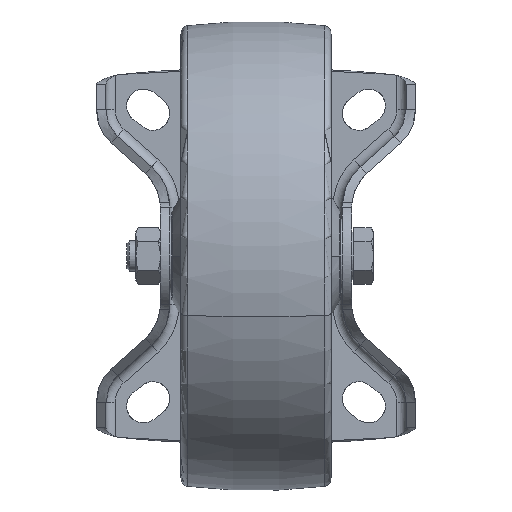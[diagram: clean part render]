
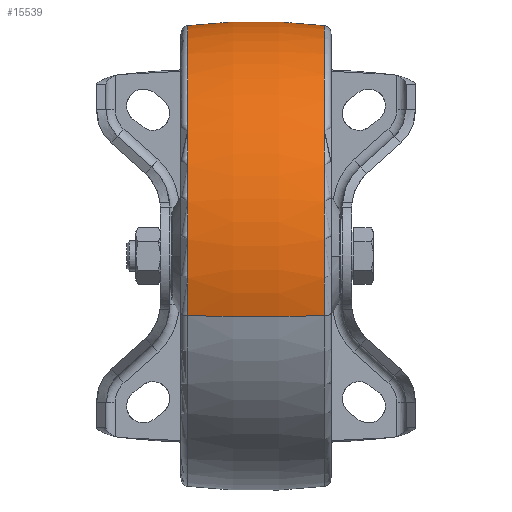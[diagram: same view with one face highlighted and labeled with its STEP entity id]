
A CAD part, front view. The second image highlights one B-rep face of the part: STEP entity #15539.
In plain terms, the highlighted toroidal (fillet/blend) face has major radius 87.5 mm and minor radius 150 mm.
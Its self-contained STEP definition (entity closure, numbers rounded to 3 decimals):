
#6308 = DIRECTION ( 'NONE',  ( 0., 0.966, 0.259 ) ) ;
#7600 = AXIS2_PLACEMENT_3D ( 'NONE', #63308, #17959, #57996 ) ;
#8575 = VERTEX_POINT ( 'NONE', #62559 ) ;
#8923 = AXIS2_PLACEMENT_3D ( 'NONE', #24689, #65407, #55018 ) ;
#11637 = VERTEX_POINT ( 'NONE', #38419 ) ;
#13123 = EDGE_CURVE ( 'NONE', #38137, #61074, #43927, .T. ) ;
#13463 = ORIENTED_EDGE ( 'NONE', *, *, #44199, .F. ) ;
#15408 = ORIENTED_EDGE ( 'NONE', *, *, #18174, .F. ) ;
#15539 = ADVANCED_FACE ( 'NONE', ( #30942 ), #54770, .T. ) ;
#17959 = DIRECTION ( 'NONE',  ( 1., 0., 0. ) ) ;
#18174 = EDGE_CURVE ( 'NONE', #38137, #8575, #63158, .T. ) ;
#19834 = AXIS2_PLACEMENT_3D ( 'NONE', #58515, #28883, #38404 ) ;
#20075 = CIRCLE ( 'NONE', #21869, 61.386 ) ;
#21869 = AXIS2_PLACEMENT_3D ( 'NONE', #46632, #26667, #6308 ) ;
#23047 = CARTESIAN_POINT ( 'NONE',  ( 18.243, 0., -61.386 ) ) ;
#24249 = CIRCLE ( 'NONE', #8923, 150. ) ;
#24689 = CARTESIAN_POINT ( 'NONE',  ( 0., 0., 87.5 ) ) ;
#26640 = ORIENTED_EDGE ( 'NONE', *, *, #13123, .T. ) ;
#26667 = DIRECTION ( 'NONE',  ( -1., 0., 0. ) ) ;
#28211 = DIRECTION ( 'NONE',  ( 0., -0.259, 0.966 ) ) ;
#28883 = DIRECTION ( 'NONE',  ( -1., 0., 0. ) ) ;
#30942 = FACE_OUTER_BOUND ( 'NONE', #46539, .T. ) ;
#38137 = VERTEX_POINT ( 'NONE', #43038 ) ;
#38404 = DIRECTION ( 'NONE',  ( 0., 0.966, 0.259 ) ) ;
#38419 = CARTESIAN_POINT ( 'NONE',  ( -18.243, 0., -61.386 ) ) ;
#43038 = CARTESIAN_POINT ( 'NONE',  ( 18.243, 59.295, 15.888 ) ) ;
#43927 = CIRCLE ( 'NONE', #19834, 61.386 ) ;
#44199 = EDGE_CURVE ( 'NONE', #8575, #11637, #20075, .T. ) ;
#46539 = EDGE_LOOP ( 'NONE', ( #47599, #13463, #15408, #26640 ) ) ;
#46632 = CARTESIAN_POINT ( 'NONE',  ( -18.243, 0., 0. ) ) ;
#46683 = AXIS2_PLACEMENT_3D ( 'NONE', #48627, #28211, #58286 ) ;
#47599 = ORIENTED_EDGE ( 'NONE', *, *, #62552, .F. ) ;
#48627 = CARTESIAN_POINT ( 'NONE',  ( 0., -84.519, -22.647 ) ) ;
#54770 = TOROIDAL_SURFACE ( 'NONE', #7600, -87.5, 150. ) ;
#55018 = DIRECTION ( 'NONE',  ( 1., 0., 0. ) ) ;
#57996 = DIRECTION ( 'NONE',  ( 0., 0., -1. ) ) ;
#58286 = DIRECTION ( 'NONE',  ( 0.122, 0.959, 0.257 ) ) ;
#58515 = CARTESIAN_POINT ( 'NONE',  ( 18.243, 0., 0. ) ) ;
#61074 = VERTEX_POINT ( 'NONE', #23047 ) ;
#62552 = EDGE_CURVE ( 'NONE', #11637, #61074, #24249, .T. ) ;
#62559 = CARTESIAN_POINT ( 'NONE',  ( -18.243, 59.295, 15.888 ) ) ;
#63158 = CIRCLE ( 'NONE', #46683, 150. ) ;
#63308 = CARTESIAN_POINT ( 'NONE',  ( 0., 0., 0. ) ) ;
#65407 = DIRECTION ( 'NONE',  ( 0., -1., 0. ) ) ;
